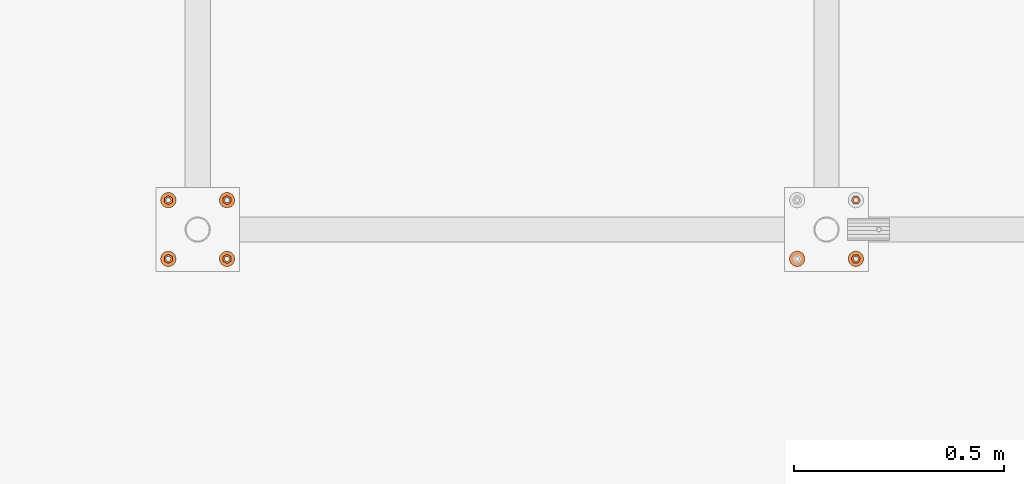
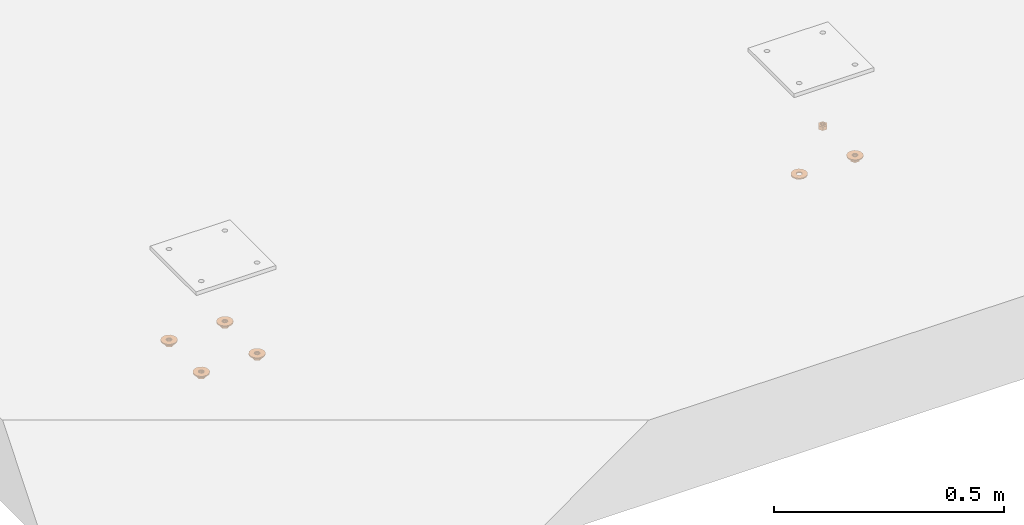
# One storey, part 19 of 30: 12 proxies.
"""IFC2X3 building model written with IfcOpenShell, lengths in millimetres."""

from ifc_helpers import new_model, entity, si_unit, converted_unit, origin_with_axes, place, context, project, spatial, faceted_brep, material, element, save


model = new_model("IFC2X3")

# Units and contexts
model_context = context("Model", 3, precision=1e-09, world=origin_with_axes())
ifc_project = project(units=[si_unit("LENGTHUNIT", "METRE", prefix="MILLI"), si_unit("AREAUNIT", "SQUARE_METRE"), si_unit("VOLUMEUNIT", "CUBIC_METRE"), converted_unit("PLANEANGLEUNIT", "DEGREE", entity("IfcPlaneAngleMeasure", 0.01745329), si_unit("PLANEANGLEUNIT", "RADIAN"), dimensions=[0, 0, 0, 0, 0, 0, 0])], contexts=[model_context])

# Site, building, storey
site_placement = place(None, origin_with_axes())
site = spatial("IfcSite", under=ifc_project, at=site_placement, Name="M?nsinger Stra?e, 81477 M?nchen", CompositionType="ELEMENT")
building_placement = place(site_placement, origin_with_axes())
building = spatial("IfcBuilding", under=site, at=building_placement, Name="Struktur 1", CompositionType="ELEMENT")
storey_placement = place(building_placement, origin_with_axes())
storey = spatial("IfcBuildingStorey", under=building, at=storey_placement, Name="Default Storey", CompositionType="ELEMENT", Elevation=0.0)

# Proxies
ifc_material = material(Name="Kein")
proxy_1_placement = place(None, origin_with_axes())
element("IfcBuildingElementProxy", 1, at=proxy_1_placement, inside=storey, material=ifc_material, ObjectType="-", context=model_context, shape_type="Brep", body=[
    faceted_brep([(1470.315117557, 1561.2632594, 6512.0), (1470.315117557, 1561.2632594, 6502.0), (1471.118965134, 1564.2632594, 6502.0), (1471.118965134, 1564.2632594, 6512.0), (1473.315117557, 1566.459411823, 6502.0), (1473.315117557, 1566.459411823, 6512.0), (1471.118965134, 1558.2632594, 6512.0), (1471.118965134, 1558.2632594, 6502.0), (1466.815117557, 1555.778431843, 6512.0), (1476.315117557, 1550.293604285, 6512.0), (1485.815117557, 1555.778431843, 6512.0), (1485.815117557, 1566.748086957, 6512.0), (1476.315117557, 1572.232914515, 6512.0), (1466.815117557, 1566.748086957, 6512.0), (1473.315117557, 1556.067106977, 6512.0), (1476.315117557, 1567.2632594, 6512.0), (1479.315117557, 1566.459411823, 6512.0), (1481.51126998, 1564.2632594, 6512.0), (1482.315117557, 1561.2632594, 6512.0), (1481.51126998, 1558.2632594, 6512.0), (1479.315117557, 1556.067106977, 6512.0), (1476.315117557, 1555.2632594, 6512.0), (1476.315117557, 1550.293604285, 6502.0), (1466.815117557, 1555.778431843, 6502.0), (1466.815117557, 1566.748086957, 6502.0), (1476.315117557, 1572.232914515, 6502.0), (1485.815117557, 1566.748086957, 6502.0), (1485.815117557, 1555.778431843, 6502.0), (1473.315117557, 1556.067106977, 6502.0), (1476.315117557, 1555.2632594, 6502.0), (1479.315117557, 1556.067106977, 6502.0), (1481.51126998, 1558.2632594, 6502.0), (1482.315117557, 1561.2632594, 6502.0), (1481.51126998, 1564.2632594, 6502.0), (1479.315117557, 1566.459411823, 6502.0), (1476.315117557, 1567.2632594, 6502.0)], [[[0, 1, 2, 3]], [[3, 2, 4, 5]], [[1, 0, 6, 7]], [[8, 9, 10, 11, 12, 13], [14, 6, 0, 3, 5, 15, 16, 17, 18, 19, 20, 21]], [[22, 23, 24, 25, 26, 27], [1, 7, 28, 29, 30, 31, 32, 33, 34, 35, 4, 2]], [[7, 6, 14, 28]], [[24, 23, 8, 13]], [[5, 4, 35, 15]], [[13, 12, 25, 24]], [[28, 14, 21, 29]], [[23, 22, 9, 8]], [[15, 35, 34, 16]], [[12, 11, 26, 25]], [[29, 21, 20, 30]], [[22, 27, 10, 9]], [[16, 34, 33, 17]], [[27, 26, 11, 10]], [[30, 20, 19, 31]], [[17, 33, 32, 18]], [[31, 19, 18, 32]]]),
])
proxy_2_placement = place(None, origin_with_axes())
element("IfcBuildingElementProxy", 2, at=proxy_2_placement, inside=storey, material=ifc_material, ObjectType="-", context=model_context, shape_type="Brep", body=[
    faceted_brep([(1464.780556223, 1575.727141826, 6515.0), (1464.780556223, 1575.727141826, 6512.0), (1459.647193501, 1569.290108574, 6512.0), (1459.647193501, 1569.290108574, 6515.0), (1480.431754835, 1579.299425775, 6515.0), (1472.198480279, 1579.299425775, 6515.0), (1457.815117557, 1561.2632594, 6515.0), (1459.647193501, 1553.236410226, 6515.0), (1464.780556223, 1546.799376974, 6515.0), (1472.198480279, 1543.227093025, 6515.0), (1480.431754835, 1543.227093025, 6515.0), (1487.849678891, 1546.799376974, 6515.0), (1492.983041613, 1553.236410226, 6515.0), (1494.815117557, 1561.2632594, 6515.0), (1492.983041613, 1569.290108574, 6515.0), (1487.849678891, 1575.727141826, 6515.0), (1473.065117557, 1566.892424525, 6515.0), (1476.315117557, 1567.7632594, 6515.0), (1479.565117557, 1566.892424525, 6515.0), (1481.944282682, 1564.5132594, 6515.0), (1482.815117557, 1561.2632594, 6515.0), (1481.944282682, 1558.0132594, 6515.0), (1479.565117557, 1555.634094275, 6515.0), (1476.315117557, 1554.7632594, 6515.0), (1473.065117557, 1555.634094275, 6515.0), (1470.685952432, 1558.0132594, 6515.0), (1469.815117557, 1561.2632594, 6515.0), (1470.685952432, 1564.5132594, 6515.0), (1459.647193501, 1553.236410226, 6512.0), (1457.815117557, 1561.2632594, 6512.0), (1472.198480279, 1579.299425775, 6512.0), (1480.431754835, 1579.299425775, 6512.0), (1487.849678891, 1575.727141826, 6512.0), (1492.983041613, 1569.290108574, 6512.0), (1494.815117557, 1561.2632594, 6512.0), (1492.983041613, 1553.236410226, 6512.0), (1487.849678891, 1546.799376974, 6512.0), (1480.431754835, 1543.227093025, 6512.0), (1472.198480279, 1543.227093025, 6512.0), (1464.780556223, 1546.799376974, 6512.0), (1469.815117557, 1561.2632594, 6512.0), (1470.685952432, 1558.0132594, 6512.0), (1473.065117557, 1555.634094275, 6512.0), (1476.315117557, 1554.7632594, 6512.0), (1479.565117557, 1555.634094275, 6512.0), (1481.944282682, 1558.0132594, 6512.0), (1482.815117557, 1561.2632594, 6512.0), (1481.944282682, 1564.5132594, 6512.0), (1479.565117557, 1566.892424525, 6512.0), (1476.315117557, 1567.7632594, 6512.0), (1473.065117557, 1566.892424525, 6512.0), (1470.685952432, 1564.5132594, 6512.0)], [[[0, 1, 2, 3]], [[4, 5, 0, 3, 6, 7, 8, 9, 10, 11, 12, 13, 14, 15], [16, 17, 18, 19, 20, 21, 22, 23, 24, 25, 26, 27]], [[28, 29, 2, 1, 30, 31, 32, 33, 34, 35, 36, 37, 38, 39], [40, 41, 42, 43, 44, 45, 46, 47, 48, 49, 50, 51]], [[1, 0, 5, 30]], [[27, 51, 50, 16]], [[51, 27, 26, 40]], [[3, 2, 29, 6]], [[30, 5, 4, 31]], [[16, 50, 49, 17]], [[40, 26, 25, 41]], [[6, 29, 28, 7]], [[31, 4, 15, 32]], [[17, 49, 48, 18]], [[41, 25, 24, 42]], [[7, 28, 39, 8]], [[32, 15, 14, 33]], [[18, 48, 47, 19]], [[42, 24, 23, 43]], [[8, 39, 38, 9]], [[33, 14, 13, 34]], [[19, 47, 46, 20]], [[22, 44, 43, 23]], [[9, 38, 37, 10]], [[45, 21, 20, 46]], [[44, 22, 21, 45]], [[34, 13, 12, 35]], [[10, 37, 36, 11]], [[35, 12, 11, 36]]]),
])
proxy_3_placement = place(None, origin_with_axes())
element("IfcBuildingElementProxy", 3, at=proxy_3_placement, inside=storey, material=ifc_material, ObjectType="-", context=model_context, shape_type="Brep", body=[
    faceted_brep([(1464.780556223, 1435.727141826, 6515.0), (1464.780556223, 1435.727141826, 6512.0), (1459.647193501, 1429.290108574, 6512.0), (1459.647193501, 1429.290108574, 6515.0), (1480.431754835, 1439.299425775, 6515.0), (1472.198480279, 1439.299425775, 6515.0), (1457.815117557, 1421.2632594, 6515.0), (1459.647193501, 1413.236410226, 6515.0), (1464.780556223, 1406.799376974, 6515.0), (1472.198480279, 1403.227093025, 6515.0), (1480.431754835, 1403.227093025, 6515.0), (1487.849678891, 1406.799376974, 6515.0), (1492.983041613, 1413.236410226, 6515.0), (1494.815117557, 1421.2632594, 6515.0), (1492.983041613, 1429.290108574, 6515.0), (1487.849678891, 1435.727141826, 6515.0), (1473.065117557, 1426.892424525, 6515.0), (1476.315117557, 1427.7632594, 6515.0), (1479.565117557, 1426.892424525, 6515.0), (1481.944282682, 1424.5132594, 6515.0), (1482.815117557, 1421.2632594, 6515.0), (1481.944282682, 1418.0132594, 6515.0), (1479.565117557, 1415.634094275, 6515.0), (1476.315117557, 1414.7632594, 6515.0), (1473.065117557, 1415.634094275, 6515.0), (1470.685952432, 1418.0132594, 6515.0), (1469.815117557, 1421.2632594, 6515.0), (1470.685952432, 1424.5132594, 6515.0), (1459.647193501, 1413.236410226, 6512.0), (1457.815117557, 1421.2632594, 6512.0), (1472.198480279, 1439.299425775, 6512.0), (1480.431754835, 1439.299425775, 6512.0), (1487.849678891, 1435.727141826, 6512.0), (1492.983041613, 1429.290108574, 6512.0), (1494.815117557, 1421.2632594, 6512.0), (1492.983041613, 1413.236410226, 6512.0), (1487.849678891, 1406.799376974, 6512.0), (1480.431754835, 1403.227093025, 6512.0), (1472.198480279, 1403.227093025, 6512.0), (1464.780556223, 1406.799376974, 6512.0), (1469.815117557, 1421.2632594, 6512.0), (1470.685952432, 1418.0132594, 6512.0), (1473.065117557, 1415.634094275, 6512.0), (1476.315117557, 1414.7632594, 6512.0), (1479.565117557, 1415.634094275, 6512.0), (1481.944282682, 1418.0132594, 6512.0), (1482.815117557, 1421.2632594, 6512.0), (1481.944282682, 1424.5132594, 6512.0), (1479.565117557, 1426.892424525, 6512.0), (1476.315117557, 1427.7632594, 6512.0), (1473.065117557, 1426.892424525, 6512.0), (1470.685952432, 1424.5132594, 6512.0)], [[[0, 1, 2, 3]], [[4, 5, 0, 3, 6, 7, 8, 9, 10, 11, 12, 13, 14, 15], [16, 17, 18, 19, 20, 21, 22, 23, 24, 25, 26, 27]], [[28, 29, 2, 1, 30, 31, 32, 33, 34, 35, 36, 37, 38, 39], [40, 41, 42, 43, 44, 45, 46, 47, 48, 49, 50, 51]], [[1, 0, 5, 30]], [[27, 51, 50, 16]], [[51, 27, 26, 40]], [[3, 2, 29, 6]], [[30, 5, 4, 31]], [[16, 50, 49, 17]], [[40, 26, 25, 41]], [[6, 29, 28, 7]], [[31, 4, 15, 32]], [[17, 49, 48, 18]], [[41, 25, 24, 42]], [[7, 28, 39, 8]], [[32, 15, 14, 33]], [[18, 48, 47, 19]], [[42, 24, 23, 43]], [[8, 39, 38, 9]], [[33, 14, 13, 34]], [[19, 47, 46, 20]], [[22, 44, 43, 23]], [[9, 38, 37, 10]], [[45, 21, 20, 46]], [[44, 22, 21, 45]], [[34, 13, 12, 35]], [[10, 37, 36, 11]], [[35, 12, 11, 36]]]),
])
proxy_4_placement = place(None, origin_with_axes())
element("IfcBuildingElementProxy", 4, at=proxy_4_placement, inside=storey, material=ifc_material, ObjectType="-", context=model_context, shape_type="Brep", body=[
    faceted_brep([(1470.315117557, 1421.2632594, 6512.0), (1470.315117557, 1421.2632594, 6502.0), (1471.118965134, 1424.2632594, 6502.0), (1471.118965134, 1424.2632594, 6512.0), (1473.315117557, 1426.459411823, 6502.0), (1473.315117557, 1426.459411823, 6512.0), (1471.118965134, 1418.2632594, 6512.0), (1471.118965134, 1418.2632594, 6502.0), (1466.815117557, 1415.778431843, 6512.0), (1476.315117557, 1410.293604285, 6512.0), (1485.815117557, 1415.778431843, 6512.0), (1485.815117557, 1426.748086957, 6512.0), (1476.315117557, 1432.232914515, 6512.0), (1466.815117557, 1426.748086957, 6512.0), (1473.315117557, 1416.067106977, 6512.0), (1476.315117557, 1427.2632594, 6512.0), (1479.315117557, 1426.459411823, 6512.0), (1481.51126998, 1424.2632594, 6512.0), (1482.315117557, 1421.2632594, 6512.0), (1481.51126998, 1418.2632594, 6512.0), (1479.315117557, 1416.067106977, 6512.0), (1476.315117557, 1415.2632594, 6512.0), (1476.315117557, 1410.293604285, 6502.0), (1466.815117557, 1415.778431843, 6502.0), (1466.815117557, 1426.748086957, 6502.0), (1476.315117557, 1432.232914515, 6502.0), (1485.815117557, 1426.748086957, 6502.0), (1485.815117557, 1415.778431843, 6502.0), (1473.315117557, 1416.067106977, 6502.0), (1476.315117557, 1415.2632594, 6502.0), (1479.315117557, 1416.067106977, 6502.0), (1481.51126998, 1418.2632594, 6502.0), (1482.315117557, 1421.2632594, 6502.0), (1481.51126998, 1424.2632594, 6502.0), (1479.315117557, 1426.459411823, 6502.0), (1476.315117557, 1427.2632594, 6502.0)], [[[0, 1, 2, 3]], [[3, 2, 4, 5]], [[1, 0, 6, 7]], [[8, 9, 10, 11, 12, 13], [14, 6, 0, 3, 5, 15, 16, 17, 18, 19, 20, 21]], [[22, 23, 24, 25, 26, 27], [1, 7, 28, 29, 30, 31, 32, 33, 34, 35, 4, 2]], [[7, 6, 14, 28]], [[24, 23, 8, 13]], [[5, 4, 35, 15]], [[13, 12, 25, 24]], [[28, 14, 21, 29]], [[23, 22, 9, 8]], [[15, 35, 34, 16]], [[12, 11, 26, 25]], [[29, 21, 20, 30]], [[22, 27, 10, 9]], [[16, 34, 33, 17]], [[27, 26, 11, 10]], [[30, 20, 19, 31]], [[17, 33, 32, 18]], [[31, 19, 18, 32]]]),
])
proxy_5_placement = place(None, origin_with_axes())
element("IfcBuildingElementProxy", 5, at=proxy_5_placement, inside=storey, material=ifc_material, ObjectType="-", context=model_context, shape_type="Brep", body=[
    faceted_brep([(1330.315117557, 1421.2632594, 6512.0), (1330.315117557, 1421.2632594, 6502.0), (1331.118965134, 1424.2632594, 6502.0), (1331.118965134, 1424.2632594, 6512.0), (1333.315117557, 1426.459411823, 6502.0), (1333.315117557, 1426.459411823, 6512.0), (1331.118965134, 1418.2632594, 6512.0), (1331.118965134, 1418.2632594, 6502.0), (1326.815117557, 1415.778431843, 6512.0), (1336.315117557, 1410.293604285, 6512.0), (1345.815117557, 1415.778431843, 6512.0), (1345.815117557, 1426.748086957, 6512.0), (1336.315117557, 1432.232914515, 6512.0), (1326.815117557, 1426.748086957, 6512.0), (1333.315117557, 1416.067106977, 6512.0), (1336.315117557, 1427.2632594, 6512.0), (1339.315117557, 1426.459411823, 6512.0), (1341.51126998, 1424.2632594, 6512.0), (1342.315117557, 1421.2632594, 6512.0), (1341.51126998, 1418.2632594, 6512.0), (1339.315117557, 1416.067106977, 6512.0), (1336.315117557, 1415.2632594, 6512.0), (1336.315117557, 1410.293604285, 6502.0), (1326.815117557, 1415.778431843, 6502.0), (1326.815117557, 1426.748086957, 6502.0), (1336.315117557, 1432.232914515, 6502.0), (1345.815117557, 1426.748086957, 6502.0), (1345.815117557, 1415.778431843, 6502.0), (1333.315117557, 1416.067106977, 6502.0), (1336.315117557, 1415.2632594, 6502.0), (1339.315117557, 1416.067106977, 6502.0), (1341.51126998, 1418.2632594, 6502.0), (1342.315117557, 1421.2632594, 6502.0), (1341.51126998, 1424.2632594, 6502.0), (1339.315117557, 1426.459411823, 6502.0), (1336.315117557, 1427.2632594, 6502.0)], [[[0, 1, 2, 3]], [[3, 2, 4, 5]], [[1, 0, 6, 7]], [[8, 9, 10, 11, 12, 13], [14, 6, 0, 3, 5, 15, 16, 17, 18, 19, 20, 21]], [[22, 23, 24, 25, 26, 27], [1, 7, 28, 29, 30, 31, 32, 33, 34, 35, 4, 2]], [[7, 6, 14, 28]], [[24, 23, 8, 13]], [[5, 4, 35, 15]], [[13, 12, 25, 24]], [[28, 14, 21, 29]], [[23, 22, 9, 8]], [[15, 35, 34, 16]], [[12, 11, 26, 25]], [[29, 21, 20, 30]], [[22, 27, 10, 9]], [[16, 34, 33, 17]], [[27, 26, 11, 10]], [[30, 20, 19, 31]], [[17, 33, 32, 18]], [[31, 19, 18, 32]]]),
])
proxy_6_placement = place(None, origin_with_axes())
element("IfcBuildingElementProxy", 6, at=proxy_6_placement, inside=storey, material=ifc_material, ObjectType="-", context=model_context, shape_type="Brep", body=[
    faceted_brep([(1324.780556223, 1435.727141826, 6515.0), (1324.780556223, 1435.727141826, 6512.0), (1319.647193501, 1429.290108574, 6512.0), (1319.647193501, 1429.290108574, 6515.0), (1340.431754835, 1439.299425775, 6515.0), (1332.198480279, 1439.299425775, 6515.0), (1317.815117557, 1421.2632594, 6515.0), (1319.647193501, 1413.236410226, 6515.0), (1324.780556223, 1406.799376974, 6515.0), (1332.198480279, 1403.227093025, 6515.0), (1340.431754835, 1403.227093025, 6515.0), (1347.849678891, 1406.799376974, 6515.0), (1352.983041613, 1413.236410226, 6515.0), (1354.815117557, 1421.2632594, 6515.0), (1352.983041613, 1429.290108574, 6515.0), (1347.849678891, 1435.727141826, 6515.0), (1333.065117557, 1426.892424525, 6515.0), (1336.315117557, 1427.7632594, 6515.0), (1339.565117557, 1426.892424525, 6515.0), (1341.944282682, 1424.5132594, 6515.0), (1342.815117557, 1421.2632594, 6515.0), (1341.944282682, 1418.0132594, 6515.0), (1339.565117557, 1415.634094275, 6515.0), (1336.315117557, 1414.7632594, 6515.0), (1333.065117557, 1415.634094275, 6515.0), (1330.685952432, 1418.0132594, 6515.0), (1329.815117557, 1421.2632594, 6515.0), (1330.685952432, 1424.5132594, 6515.0), (1319.647193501, 1413.236410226, 6512.0), (1317.815117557, 1421.2632594, 6512.0), (1332.198480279, 1439.299425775, 6512.0), (1340.431754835, 1439.299425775, 6512.0), (1347.849678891, 1435.727141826, 6512.0), (1352.983041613, 1429.290108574, 6512.0), (1354.815117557, 1421.2632594, 6512.0), (1352.983041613, 1413.236410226, 6512.0), (1347.849678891, 1406.799376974, 6512.0), (1340.431754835, 1403.227093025, 6512.0), (1332.198480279, 1403.227093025, 6512.0), (1324.780556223, 1406.799376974, 6512.0), (1329.815117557, 1421.2632594, 6512.0), (1330.685952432, 1418.0132594, 6512.0), (1333.065117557, 1415.634094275, 6512.0), (1336.315117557, 1414.7632594, 6512.0), (1339.565117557, 1415.634094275, 6512.0), (1341.944282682, 1418.0132594, 6512.0), (1342.815117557, 1421.2632594, 6512.0), (1341.944282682, 1424.5132594, 6512.0), (1339.565117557, 1426.892424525, 6512.0), (1336.315117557, 1427.7632594, 6512.0), (1333.065117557, 1426.892424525, 6512.0), (1330.685952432, 1424.5132594, 6512.0)], [[[0, 1, 2, 3]], [[4, 5, 0, 3, 6, 7, 8, 9, 10, 11, 12, 13, 14, 15], [16, 17, 18, 19, 20, 21, 22, 23, 24, 25, 26, 27]], [[28, 29, 2, 1, 30, 31, 32, 33, 34, 35, 36, 37, 38, 39], [40, 41, 42, 43, 44, 45, 46, 47, 48, 49, 50, 51]], [[1, 0, 5, 30]], [[27, 51, 50, 16]], [[51, 27, 26, 40]], [[3, 2, 29, 6]], [[30, 5, 4, 31]], [[16, 50, 49, 17]], [[40, 26, 25, 41]], [[6, 29, 28, 7]], [[31, 4, 15, 32]], [[17, 49, 48, 18]], [[41, 25, 24, 42]], [[7, 28, 39, 8]], [[32, 15, 14, 33]], [[18, 48, 47, 19]], [[42, 24, 23, 43]], [[8, 39, 38, 9]], [[33, 14, 13, 34]], [[19, 47, 46, 20]], [[22, 44, 43, 23]], [[9, 38, 37, 10]], [[45, 21, 20, 46]], [[44, 22, 21, 45]], [[34, 13, 12, 35]], [[10, 37, 36, 11]], [[35, 12, 11, 36]]]),
])
proxy_7_placement = place(None, origin_with_axes())
element("IfcBuildingElementProxy", 7, at=proxy_7_placement, inside=storey, material=ifc_material, ObjectType="-", context=model_context, shape_type="Brep", body=[
    faceted_brep([(1324.780556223, 1575.727141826, 6515.0), (1324.780556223, 1575.727141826, 6512.0), (1319.647193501, 1569.290108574, 6512.0), (1319.647193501, 1569.290108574, 6515.0), (1340.431754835, 1579.299425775, 6515.0), (1332.198480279, 1579.299425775, 6515.0), (1317.815117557, 1561.2632594, 6515.0), (1319.647193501, 1553.236410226, 6515.0), (1324.780556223, 1546.799376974, 6515.0), (1332.198480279, 1543.227093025, 6515.0), (1340.431754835, 1543.227093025, 6515.0), (1347.849678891, 1546.799376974, 6515.0), (1352.983041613, 1553.236410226, 6515.0), (1354.815117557, 1561.2632594, 6515.0), (1352.983041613, 1569.290108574, 6515.0), (1347.849678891, 1575.727141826, 6515.0), (1333.065117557, 1566.892424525, 6515.0), (1336.315117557, 1567.7632594, 6515.0), (1339.565117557, 1566.892424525, 6515.0), (1341.944282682, 1564.5132594, 6515.0), (1342.815117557, 1561.2632594, 6515.0), (1341.944282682, 1558.0132594, 6515.0), (1339.565117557, 1555.634094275, 6515.0), (1336.315117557, 1554.7632594, 6515.0), (1333.065117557, 1555.634094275, 6515.0), (1330.685952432, 1558.0132594, 6515.0), (1329.815117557, 1561.2632594, 6515.0), (1330.685952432, 1564.5132594, 6515.0), (1319.647193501, 1553.236410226, 6512.0), (1317.815117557, 1561.2632594, 6512.0), (1332.198480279, 1579.299425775, 6512.0), (1340.431754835, 1579.299425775, 6512.0), (1347.849678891, 1575.727141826, 6512.0), (1352.983041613, 1569.290108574, 6512.0), (1354.815117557, 1561.2632594, 6512.0), (1352.983041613, 1553.236410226, 6512.0), (1347.849678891, 1546.799376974, 6512.0), (1340.431754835, 1543.227093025, 6512.0), (1332.198480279, 1543.227093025, 6512.0), (1324.780556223, 1546.799376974, 6512.0), (1329.815117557, 1561.2632594, 6512.0), (1330.685952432, 1558.0132594, 6512.0), (1333.065117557, 1555.634094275, 6512.0), (1336.315117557, 1554.7632594, 6512.0), (1339.565117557, 1555.634094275, 6512.0), (1341.944282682, 1558.0132594, 6512.0), (1342.815117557, 1561.2632594, 6512.0), (1341.944282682, 1564.5132594, 6512.0), (1339.565117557, 1566.892424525, 6512.0), (1336.315117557, 1567.7632594, 6512.0), (1333.065117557, 1566.892424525, 6512.0), (1330.685952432, 1564.5132594, 6512.0)], [[[0, 1, 2, 3]], [[4, 5, 0, 3, 6, 7, 8, 9, 10, 11, 12, 13, 14, 15], [16, 17, 18, 19, 20, 21, 22, 23, 24, 25, 26, 27]], [[28, 29, 2, 1, 30, 31, 32, 33, 34, 35, 36, 37, 38, 39], [40, 41, 42, 43, 44, 45, 46, 47, 48, 49, 50, 51]], [[1, 0, 5, 30]], [[27, 51, 50, 16]], [[51, 27, 26, 40]], [[3, 2, 29, 6]], [[30, 5, 4, 31]], [[16, 50, 49, 17]], [[40, 26, 25, 41]], [[6, 29, 28, 7]], [[31, 4, 15, 32]], [[17, 49, 48, 18]], [[41, 25, 24, 42]], [[7, 28, 39, 8]], [[32, 15, 14, 33]], [[18, 48, 47, 19]], [[42, 24, 23, 43]], [[8, 39, 38, 9]], [[33, 14, 13, 34]], [[19, 47, 46, 20]], [[22, 44, 43, 23]], [[9, 38, 37, 10]], [[45, 21, 20, 46]], [[44, 22, 21, 45]], [[34, 13, 12, 35]], [[10, 37, 36, 11]], [[35, 12, 11, 36]]]),
])
proxy_8_placement = place(None, origin_with_axes())
element("IfcBuildingElementProxy", 8, at=proxy_8_placement, inside=storey, material=ifc_material, ObjectType="-", context=model_context, shape_type="Brep", body=[
    faceted_brep([(1330.315117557, 1561.2632594, 6512.0), (1330.315117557, 1561.2632594, 6502.0), (1331.118965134, 1564.2632594, 6502.0), (1331.118965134, 1564.2632594, 6512.0), (1333.315117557, 1566.459411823, 6502.0), (1333.315117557, 1566.459411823, 6512.0), (1331.118965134, 1558.2632594, 6512.0), (1331.118965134, 1558.2632594, 6502.0), (1326.815117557, 1555.778431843, 6512.0), (1336.315117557, 1550.293604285, 6512.0), (1345.815117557, 1555.778431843, 6512.0), (1345.815117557, 1566.748086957, 6512.0), (1336.315117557, 1572.232914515, 6512.0), (1326.815117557, 1566.748086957, 6512.0), (1333.315117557, 1556.067106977, 6512.0), (1336.315117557, 1567.2632594, 6512.0), (1339.315117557, 1566.459411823, 6512.0), (1341.51126998, 1564.2632594, 6512.0), (1342.315117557, 1561.2632594, 6512.0), (1341.51126998, 1558.2632594, 6512.0), (1339.315117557, 1556.067106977, 6512.0), (1336.315117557, 1555.2632594, 6512.0), (1336.315117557, 1550.293604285, 6502.0), (1326.815117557, 1555.778431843, 6502.0), (1326.815117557, 1566.748086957, 6502.0), (1336.315117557, 1572.232914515, 6502.0), (1345.815117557, 1566.748086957, 6502.0), (1345.815117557, 1555.778431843, 6502.0), (1333.315117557, 1556.067106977, 6502.0), (1336.315117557, 1555.2632594, 6502.0), (1339.315117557, 1556.067106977, 6502.0), (1341.51126998, 1558.2632594, 6502.0), (1342.315117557, 1561.2632594, 6502.0), (1341.51126998, 1564.2632594, 6502.0), (1339.315117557, 1566.459411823, 6502.0), (1336.315117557, 1567.2632594, 6502.0)], [[[0, 1, 2, 3]], [[3, 2, 4, 5]], [[1, 0, 6, 7]], [[8, 9, 10, 11, 12, 13], [14, 6, 0, 3, 5, 15, 16, 17, 18, 19, 20, 21]], [[22, 23, 24, 25, 26, 27], [1, 7, 28, 29, 30, 31, 32, 33, 34, 35, 4, 2]], [[7, 6, 14, 28]], [[24, 23, 8, 13]], [[5, 4, 35, 15]], [[13, 12, 25, 24]], [[28, 14, 21, 29]], [[23, 22, 9, 8]], [[15, 35, 34, 16]], [[12, 11, 26, 25]], [[29, 21, 20, 30]], [[22, 27, 10, 9]], [[16, 34, 33, 17]], [[27, 26, 11, 10]], [[30, 20, 19, 31]], [[17, 33, 32, 18]], [[31, 19, 18, 32]]]),
])
proxy_9_placement = place(None, origin_with_axes())
element("IfcBuildingElementProxy", 9, at=proxy_9_placement, inside=storey, material=ifc_material, ObjectType="-", context=model_context, shape_type="Brep", body=[
    faceted_brep([(2850.778999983, 1409.728698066, 6512.0), (2850.778999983, 1409.728698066, 6515.0), (2844.341966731, 1404.595335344, 6515.0), (2844.341966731, 1404.595335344, 6512.0), (2854.351283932, 1417.146622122, 6515.0), (2854.351283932, 1425.379896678, 6515.0), (2850.778999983, 1432.797820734, 6515.0), (2844.341966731, 1437.931183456, 6515.0), (2836.315117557, 1439.7632594, 6515.0), (2828.288268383, 1437.931183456, 6515.0), (2821.851235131, 1432.797820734, 6515.0), (2818.278951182, 1425.379896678, 6515.0), (2818.278951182, 1417.146622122, 6515.0), (2821.851235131, 1409.728698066, 6515.0), (2828.288268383, 1404.595335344, 6515.0), (2836.315117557, 1402.7632594, 6515.0), (2841.944282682, 1418.0132594, 6515.0), (2839.565117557, 1415.634094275, 6515.0), (2836.315117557, 1414.7632594, 6515.0), (2833.065117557, 1415.634094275, 6515.0), (2830.685952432, 1418.0132594, 6515.0), (2829.815117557, 1421.2632594, 6515.0), (2830.685952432, 1424.5132594, 6515.0), (2833.065117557, 1426.892424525, 6515.0), (2836.315117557, 1427.7632594, 6515.0), (2839.565117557, 1426.892424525, 6515.0), (2841.944282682, 1424.5132594, 6515.0), (2842.815117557, 1421.2632594, 6515.0), (2836.315117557, 1402.7632594, 6512.0), (2828.288268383, 1404.595335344, 6512.0), (2821.851235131, 1409.728698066, 6512.0), (2818.278951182, 1417.146622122, 6512.0), (2818.278951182, 1425.379896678, 6512.0), (2821.851235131, 1432.797820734, 6512.0), (2828.288268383, 1437.931183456, 6512.0), (2836.315117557, 1439.7632594, 6512.0), (2844.341966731, 1437.931183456, 6512.0), (2850.778999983, 1432.797820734, 6512.0), (2854.351283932, 1425.379896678, 6512.0), (2854.351283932, 1417.146622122, 6512.0), (2836.315117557, 1414.7632594, 6512.0), (2839.565117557, 1415.634094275, 6512.0), (2841.944282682, 1418.0132594, 6512.0), (2842.815117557, 1421.2632594, 6512.0), (2841.944282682, 1424.5132594, 6512.0), (2839.565117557, 1426.892424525, 6512.0), (2836.315117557, 1427.7632594, 6512.0), (2833.065117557, 1426.892424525, 6512.0), (2830.685952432, 1424.5132594, 6512.0), (2829.815117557, 1421.2632594, 6512.0), (2830.685952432, 1418.0132594, 6512.0), (2833.065117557, 1415.634094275, 6512.0)], [[[0, 1, 2, 3]], [[4, 5, 6, 7, 8, 9, 10, 11, 12, 13, 14, 15, 2, 1], [16, 17, 18, 19, 20, 21, 22, 23, 24, 25, 26, 27]], [[28, 29, 30, 31, 32, 33, 34, 35, 36, 37, 38, 39, 0, 3], [40, 41, 42, 43, 44, 45, 46, 47, 48, 49, 50, 51]], [[1, 0, 39, 4]], [[41, 17, 16, 42]], [[17, 41, 40, 18]], [[3, 2, 15, 28]], [[4, 39, 38, 5]], [[42, 16, 27, 43]], [[18, 40, 51, 19]], [[28, 15, 14, 29]], [[5, 38, 37, 6]], [[43, 27, 26, 44]], [[19, 51, 50, 20]], [[29, 14, 13, 30]], [[6, 37, 36, 7]], [[44, 26, 25, 45]], [[20, 50, 49, 21]], [[30, 13, 12, 31]], [[7, 36, 35, 8]], [[45, 25, 24, 46]], [[48, 22, 21, 49]], [[31, 12, 11, 32]], [[23, 47, 46, 24]], [[22, 48, 47, 23]], [[8, 35, 34, 9]], [[32, 11, 10, 33]], [[9, 34, 33, 10]]]),
])
proxy_10_placement = place(None, origin_with_axes())
element("IfcBuildingElementProxy", 10, at=proxy_10_placement, inside=storey, material=ifc_material, ObjectType="-", context=model_context, shape_type="Brep", body=[
    faceted_brep([(2990.778999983, 1409.728698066, 6512.0), (2990.778999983, 1409.728698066, 6515.0), (2984.341966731, 1404.595335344, 6515.0), (2984.341966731, 1404.595335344, 6512.0), (2994.351283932, 1417.146622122, 6515.0), (2994.351283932, 1425.379896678, 6515.0), (2990.778999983, 1432.797820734, 6515.0), (2984.341966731, 1437.931183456, 6515.0), (2976.315117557, 1439.7632594, 6515.0), (2968.288268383, 1437.931183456, 6515.0), (2961.851235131, 1432.797820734, 6515.0), (2958.278951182, 1425.379896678, 6515.0), (2958.278951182, 1417.146622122, 6515.0), (2961.851235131, 1409.728698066, 6515.0), (2968.288268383, 1404.595335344, 6515.0), (2976.315117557, 1402.7632594, 6515.0), (2981.944282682, 1418.0132594, 6515.0), (2979.565117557, 1415.634094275, 6515.0), (2976.315117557, 1414.7632594, 6515.0), (2973.065117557, 1415.634094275, 6515.0), (2970.685952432, 1418.0132594, 6515.0), (2969.815117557, 1421.2632594, 6515.0), (2970.685952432, 1424.5132594, 6515.0), (2973.065117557, 1426.892424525, 6515.0), (2976.315117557, 1427.7632594, 6515.0), (2979.565117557, 1426.892424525, 6515.0), (2981.944282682, 1424.5132594, 6515.0), (2982.815117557, 1421.2632594, 6515.0), (2976.315117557, 1402.7632594, 6512.0), (2968.288268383, 1404.595335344, 6512.0), (2961.851235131, 1409.728698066, 6512.0), (2958.278951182, 1417.146622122, 6512.0), (2958.278951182, 1425.379896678, 6512.0), (2961.851235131, 1432.797820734, 6512.0), (2968.288268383, 1437.931183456, 6512.0), (2976.315117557, 1439.7632594, 6512.0), (2984.341966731, 1437.931183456, 6512.0), (2990.778999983, 1432.797820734, 6512.0), (2994.351283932, 1425.379896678, 6512.0), (2994.351283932, 1417.146622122, 6512.0), (2976.315117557, 1414.7632594, 6512.0), (2979.565117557, 1415.634094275, 6512.0), (2981.944282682, 1418.0132594, 6512.0), (2982.815117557, 1421.2632594, 6512.0), (2981.944282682, 1424.5132594, 6512.0), (2979.565117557, 1426.892424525, 6512.0), (2976.315117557, 1427.7632594, 6512.0), (2973.065117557, 1426.892424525, 6512.0), (2970.685952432, 1424.5132594, 6512.0), (2969.815117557, 1421.2632594, 6512.0), (2970.685952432, 1418.0132594, 6512.0), (2973.065117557, 1415.634094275, 6512.0)], [[[0, 1, 2, 3]], [[4, 5, 6, 7, 8, 9, 10, 11, 12, 13, 14, 15, 2, 1], [16, 17, 18, 19, 20, 21, 22, 23, 24, 25, 26, 27]], [[28, 29, 30, 31, 32, 33, 34, 35, 36, 37, 38, 39, 0, 3], [40, 41, 42, 43, 44, 45, 46, 47, 48, 49, 50, 51]], [[1, 0, 39, 4]], [[41, 17, 16, 42]], [[17, 41, 40, 18]], [[3, 2, 15, 28]], [[4, 39, 38, 5]], [[42, 16, 27, 43]], [[18, 40, 51, 19]], [[28, 15, 14, 29]], [[5, 38, 37, 6]], [[43, 27, 26, 44]], [[19, 51, 50, 20]], [[29, 14, 13, 30]], [[6, 37, 36, 7]], [[44, 26, 25, 45]], [[20, 50, 49, 21]], [[30, 13, 12, 31]], [[7, 36, 35, 8]], [[45, 25, 24, 46]], [[48, 22, 21, 49]], [[31, 12, 11, 32]], [[23, 47, 46, 24]], [[22, 48, 47, 23]], [[8, 35, 34, 9]], [[32, 11, 10, 33]], [[9, 34, 33, 10]]]),
])
proxy_11_placement = place(None, origin_with_axes())
element("IfcBuildingElementProxy", 11, at=proxy_11_placement, inside=storey, material=ifc_material, ObjectType="-", context=model_context, shape_type="Brep", body=[
    faceted_brep([(2976.315117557, 1415.2632594, 6502.0), (2976.315117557, 1415.2632594, 6512.0), (2979.315117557, 1416.067106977, 6512.0), (2979.315117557, 1416.067106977, 6502.0), (2981.51126998, 1418.2632594, 6512.0), (2981.51126998, 1418.2632594, 6502.0), (2973.315117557, 1416.067106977, 6502.0), (2973.315117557, 1416.067106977, 6512.0), (2970.83029, 1411.7632594, 6512.0), (2981.799945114, 1411.7632594, 6512.0), (2987.284772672, 1421.2632594, 6512.0), (2981.799945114, 1430.7632594, 6512.0), (2970.83029, 1430.7632594, 6512.0), (2965.345462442, 1421.2632594, 6512.0), (2971.118965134, 1418.2632594, 6512.0), (2970.315117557, 1421.2632594, 6512.0), (2971.118965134, 1424.2632594, 6512.0), (2973.315117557, 1426.459411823, 6512.0), (2976.315117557, 1427.2632594, 6512.0), (2979.315117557, 1426.459411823, 6512.0), (2981.51126998, 1424.2632594, 6512.0), (2982.315117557, 1421.2632594, 6512.0), (2970.83029, 1411.7632594, 6502.0), (2965.345462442, 1421.2632594, 6502.0), (2970.83029, 1430.7632594, 6502.0), (2981.799945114, 1430.7632594, 6502.0), (2987.284772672, 1421.2632594, 6502.0), (2981.799945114, 1411.7632594, 6502.0), (2971.118965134, 1418.2632594, 6502.0), (2982.315117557, 1421.2632594, 6502.0), (2970.315117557, 1421.2632594, 6502.0), (2981.51126998, 1424.2632594, 6502.0), (2971.118965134, 1424.2632594, 6502.0), (2979.315117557, 1426.459411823, 6502.0), (2973.315117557, 1426.459411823, 6502.0), (2976.315117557, 1427.2632594, 6502.0)], [[[0, 1, 2, 3]], [[3, 2, 4, 5]], [[1, 0, 6, 7]], [[8, 9, 10, 11, 12, 13], [7, 14, 15, 16, 17, 18, 19, 20, 21, 4, 2, 1]], [[22, 23, 24, 25, 26, 27]], [[7, 6, 28, 14]], [[22, 27, 9, 8]], [[5, 4, 21, 29]], [[10, 9, 27, 26]], [[14, 28, 30, 15]], [[23, 22, 8, 13]], [[29, 21, 20, 31]], [[11, 10, 26, 25]], [[15, 30, 32, 16]], [[24, 23, 13, 12]], [[31, 20, 19, 33]], [[25, 24, 12, 11]], [[16, 32, 34, 17]], [[33, 19, 18, 35]], [[17, 34, 35, 18]]]),
])
proxy_12_placement = place(None, origin_with_axes())
element("IfcBuildingElementProxy", 12, at=proxy_12_placement, inside=storey, material=ifc_material, ObjectType="-", context=model_context, shape_type="Brep", body=[
    faceted_brep([(2976.315117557, 1555.2632594, 6502.0), (2976.315117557, 1555.2632594, 6512.0), (2979.315117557, 1556.067106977, 6512.0), (2979.315117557, 1556.067106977, 6502.0), (2981.51126998, 1558.2632594, 6512.0), (2981.51126998, 1558.2632594, 6502.0), (2973.315117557, 1556.067106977, 6502.0), (2973.315117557, 1556.067106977, 6512.0), (2970.83029, 1551.7632594, 6512.0), (2981.799945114, 1551.7632594, 6512.0), (2987.284772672, 1561.2632594, 6512.0), (2981.799945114, 1570.7632594, 6512.0), (2970.83029, 1570.7632594, 6512.0), (2965.345462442, 1561.2632594, 6512.0), (2971.118965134, 1558.2632594, 6512.0), (2970.315117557, 1561.2632594, 6512.0), (2971.118965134, 1564.2632594, 6512.0), (2973.315117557, 1566.459411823, 6512.0), (2976.315117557, 1567.2632594, 6512.0), (2979.315117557, 1566.459411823, 6512.0), (2981.51126998, 1564.2632594, 6512.0), (2982.315117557, 1561.2632594, 6512.0), (2970.83029, 1551.7632594, 6502.0), (2965.345462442, 1561.2632594, 6502.0), (2970.83029, 1570.7632594, 6502.0), (2981.799945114, 1570.7632594, 6502.0), (2987.284772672, 1561.2632594, 6502.0), (2981.799945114, 1551.7632594, 6502.0), (2971.118965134, 1558.2632594, 6502.0), (2982.315117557, 1561.2632594, 6502.0), (2970.315117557, 1561.2632594, 6502.0), (2981.51126998, 1564.2632594, 6502.0), (2971.118965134, 1564.2632594, 6502.0), (2979.315117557, 1566.459411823, 6502.0), (2973.315117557, 1566.459411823, 6502.0), (2976.315117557, 1567.2632594, 6502.0)], [[[0, 1, 2, 3]], [[3, 2, 4, 5]], [[1, 0, 6, 7]], [[8, 9, 10, 11, 12, 13], [7, 14, 15, 16, 17, 18, 19, 20, 21, 4, 2, 1]], [[22, 23, 24, 25, 26, 27]], [[7, 6, 28, 14]], [[22, 27, 9, 8]], [[5, 4, 21, 29]], [[10, 9, 27, 26]], [[14, 28, 30, 15]], [[23, 22, 8, 13]], [[29, 21, 20, 31]], [[11, 10, 26, 25]], [[15, 30, 32, 16]], [[24, 23, 13, 12]], [[31, 20, 19, 33]], [[25, 24, 12, 11]], [[16, 32, 34, 17]], [[33, 19, 18, 35]], [[17, 34, 35, 18]]]),
])

save(model, "model.ifc")
